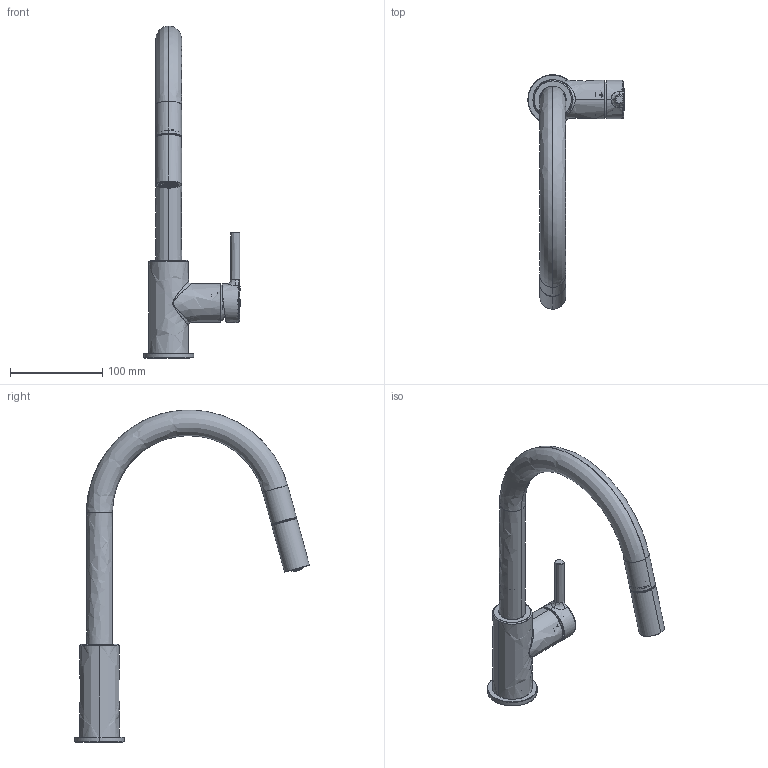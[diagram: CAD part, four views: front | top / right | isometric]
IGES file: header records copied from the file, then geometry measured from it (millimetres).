
Global section: file name: F:\_CONVERSIONE_CAD_2024_2025\03_3D kits new\08_Taps\Lina\3D001_Taps_Lina_J-Pull-Out\3D001_Taps_Lina_J-Pull-Out.igs; native system: Rhinoceros ( Jan  9 2024 ); preprocessor: Trout Lake IGES 012 Jan  9 2024; date: 240130.144651; units: millimetre
Bounding box: 104.51 x 254.69 x 360.25 mm (x, y, z)
Surface area: 165035.1 mm2 (no closed solid volume)
Topology: 0 solids, 0 shells, 5379 faces, 41794 edges, 41775 vertices
Faces by surface type: bspline 5379
